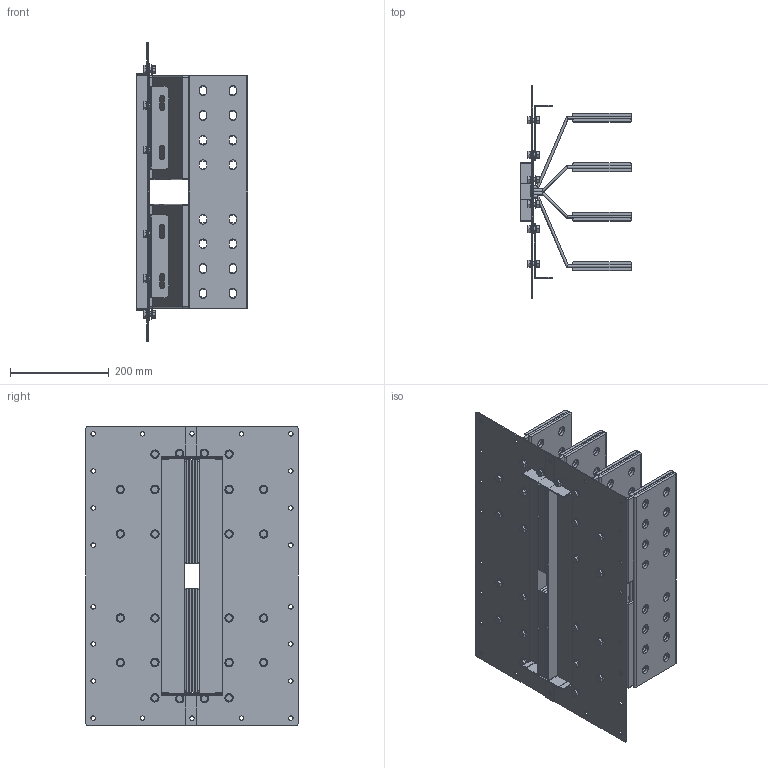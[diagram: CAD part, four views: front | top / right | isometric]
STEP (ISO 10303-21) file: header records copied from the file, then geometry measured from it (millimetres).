
FILE_DESCRIPTION(('CATIA V5 STEP','CAx-IF Rec.Pracs.--- Model Styling and Organization---1.5--- 2016-08-15','CAx-IF Rec.Pracs.---Supplemental Geometry---1.0---2011-11-01','CAx-IF Rec.Pracs.--- Composite Materials ---1.1---2010-07-15'),'2;1');
FILE_NAME('K:\COSCN 2011\32372311_RiduzioneSezioniBarre\03_Studio\__Modelli semplificati\XCP_UB semplificati per studi\XCP-S_UB_4C_Pe_STD_Assieme\Al\XCP-S_UB_4C_Pe_D_Assieme - 4000A Al\XCP-S_UB_4C_Pe_D_Assieme - 4000A Al.stp','2025-05-12T12:43:50+00:00',('Utente Bticino'),('Bticino S.p.A.'),'CATIA Version 5-6 Release 2020 SP5','CATIA V5 STEP AP214 v2','none');
FILE_SCHEMA(('AUTOMOTIVE_DESIGN { 1 0 10303 214 1 1 1 1 }'));
Length unit declared in the file: millimetre
Products named in the file (8): XCP-S_UB_4C_Pe_D_Assieme - 4000A Al; XCP-S_UB_4C_Pe_D_PaccoBarre_4000A Al; XCP-S_UB_4C_Pe_D_Lamiere_4000A Al; XCP-S_UB_4C_Pe_D_PaccoBarre_4000A Al_1; XCP-S_UB_4C_Pe_D - 4000A Al_Bandelle parallelo; Ass Vite+dado M8; Steel hex flanged SCREW M12x16; Steel hex flanged NUT M8
Assembly tree (30 placements, depth 3):
  XCP-S_UB_4C_Pe_D_Assieme - 4000A Al
    XCP-S_UB_4C_Pe_D_PaccoBarre_4000A Al
    XCP-S_UB_4C_Pe_D_Lamiere_4000A Al
    XCP-S_UB_4C_Pe_D_PaccoBarre_4000A Al_1
    XCP-S_UB_4C_Pe_D - 4000A Al_Bandelle parallelo
    Ass Vite+dado M8  x24
      Steel hex flanged SCREW M12x16
      Steel hex flanged NUT M8
Bounding box: 225 x 430 x 605 mm (x, y, z)
Volume: 5711073 mm3; surface area: 2753721.1 mm2
Topology: 74 solids, 74 shells, 2412 faces, 6244 edges, 4028 vertices
Faces by surface type: plane 1064, cylinder 916, cone 192, bspline 192, torus 48
Entity records: 41831 total; most frequent: CARTESIAN_POINT 8328, ORIENTED_EDGE 7612, DIRECTION 5160, EDGE_CURVE 3806, VERTEX_POINT 2510, VECTOR 2408, LINE 2408, AXIS2_PLACEMENT_3D 2034
